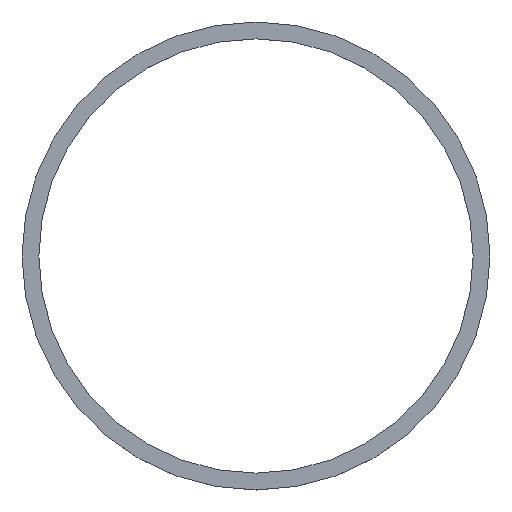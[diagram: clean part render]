
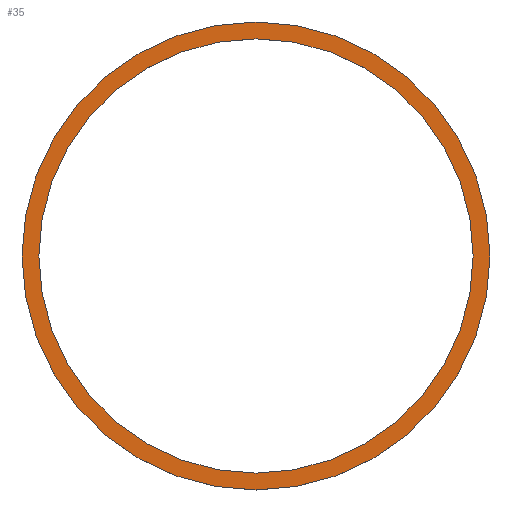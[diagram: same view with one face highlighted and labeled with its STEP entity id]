
A CAD part, top view. The second image highlights one B-rep face of the part: STEP entity #35.
In plain terms, the highlighted planar face has unit normal (0, 0, 1).
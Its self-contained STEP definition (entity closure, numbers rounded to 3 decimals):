
#28=FACE_BOUND('',#48,.F.);
#30=PLANE('',#137);
#35=ADVANCED_FACE('',(#28,#41),#30,.T.);
#41=FACE_OUTER_BOUND('',#49,.F.);
#48=EDGE_LOOP('',(#67,#68));
#49=EDGE_LOOP('',(#69,#70));
#67=ORIENTED_EDGE('',*,*,#104,.T.);
#68=ORIENTED_EDGE('',*,*,#96,.T.);
#69=ORIENTED_EDGE('',*,*,#105,.F.);
#70=ORIENTED_EDGE('',*,*,#97,.F.);
#96=EDGE_CURVE('',#120,#119,#108,.T.);
#97=EDGE_CURVE('',#118,#117,#109,.T.);
#104=EDGE_CURVE('',#119,#120,#112,.T.);
#105=EDGE_CURVE('',#117,#118,#113,.T.);
#108=CIRCLE('',#126,32.25);
#109=CIRCLE('',#127,34.75);
#112=CIRCLE('',#130,32.25);
#113=CIRCLE('',#131,34.75);
#117=VERTEX_POINT('',#179);
#118=VERTEX_POINT('',#180);
#119=VERTEX_POINT('',#181);
#120=VERTEX_POINT('',#182);
#126=AXIS2_PLACEMENT_3D('',#186,#144,#145);
#127=AXIS2_PLACEMENT_3D('',#187,#146,#147);
#130=AXIS2_PLACEMENT_3D('',#194,#156,#157);
#131=AXIS2_PLACEMENT_3D('',#195,#158,#159);
#137=AXIS2_PLACEMENT_3D('',#201,#170,#171);
#144=DIRECTION('',(0.,0.,1.));
#145=DIRECTION('',(0.,1.,0.));
#146=DIRECTION('',(0.,0.,1.));
#147=DIRECTION('',(0.,1.,0.));
#156=DIRECTION('',(0.,0.,1.));
#157=DIRECTION('',(0.,-1.,0.));
#158=DIRECTION('',(0.,0.,1.));
#159=DIRECTION('',(0.,-1.,0.));
#170=DIRECTION('',(0.,0.,1.));
#171=DIRECTION('',(-1.,0.,0.));
#179=CARTESIAN_POINT('',(284.375,384.502,383.874));
#180=CARTESIAN_POINT('',(284.375,454.002,383.874));
#181=CARTESIAN_POINT('',(284.375,387.002,383.874));
#182=CARTESIAN_POINT('',(284.375,451.502,383.874));
#186=CARTESIAN_POINT('',(284.375,419.252,383.874));
#187=CARTESIAN_POINT('',(284.375,419.252,383.874));
#194=CARTESIAN_POINT('',(284.375,419.252,383.874));
#195=CARTESIAN_POINT('',(284.375,419.252,383.874));
#201=CARTESIAN_POINT('',(319.82,454.697,383.874));
